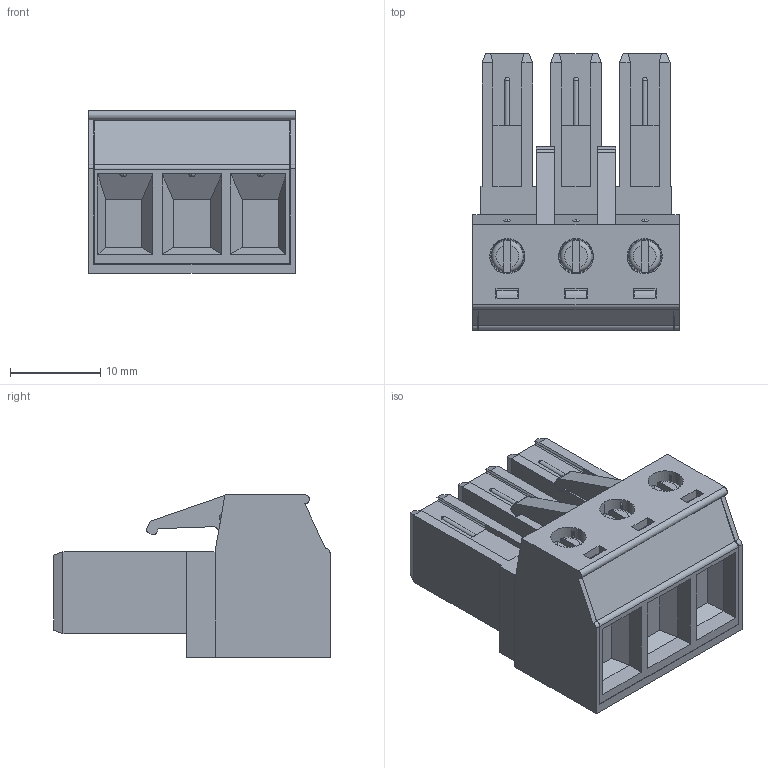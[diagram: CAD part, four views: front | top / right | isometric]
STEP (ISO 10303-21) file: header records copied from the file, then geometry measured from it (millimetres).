
FILE_DESCRIPTION((''),'2;1');
FILE_NAME('3PIN_SW0001','2019-05-28T',('zhenbing.lai'),(''),'CREO PARAMETRIC BY PTC INC, 2016260','CREO PARAMETRIC BY PTC INC, 2016260','');
FILE_SCHEMA(('CONFIG_CONTROL_DESIGN'));
Length unit declared in the file: millimetre
Products named in the file (1): 3PIN_SW0001
Bounding box: 22.86 x 30.6 x 18 mm (x, y, z)
Volume: 7104 mm3; surface area: 4846.4 mm2
Topology: 1 solids, 11 shells, 521 faces, 1522 edges, 1006 vertices
Faces by surface type: plane 381, cylinder 89, cone 24, sphere 15, torus 12
Entity records: 17993 total; most frequent: CARTESIAN_POINT 4207, ORIENTED_EDGE 3020, DIRECTION 2659, EDGE_CURVE 1510, VECTOR 1055, LINE 1055, VERTEX_POINT 1006, AXIS2_PLACEMENT_3D 802
